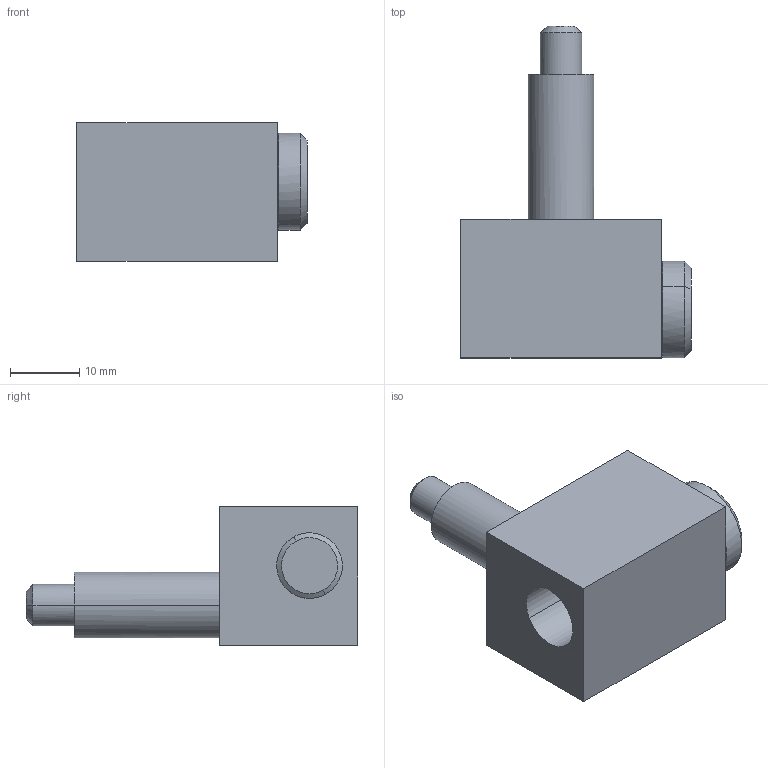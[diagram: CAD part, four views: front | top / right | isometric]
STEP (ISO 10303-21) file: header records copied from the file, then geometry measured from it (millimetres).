
FILE_DESCRIPTION(('CATIA V5 STEP Exchange'),'2;1');
FILE_NAME('W:\CATALOGO GENERAL 2018\FICHEROS CAD\025-ACCESORIOS\01-RACORES\RMF\RMF-C-M6L.stp','2025-04-29T07:40:20+00:00',('none'),('none'),'CATIA Version 5 Release 17 (IN-10)','CATIA V5 STEP AP203','none');
FILE_SCHEMA(('CONFIG_CONTROL_DESIGN'));
Length unit declared in the file: millimetre
Products named in the file (1): Product1
Assembly tree (2 placements, depth 2):
  Product1
    #56
    #2314
Bounding box: 33.3 x 48 x 20 mm (x, y, z)
Volume: 12105.6 mm3; surface area: 5609.1 mm2
Topology: 2 solids, 2 shells, 98 faces, 208 edges, 119 vertices
Faces by surface type: torus 34, cone 33, plane 19, cylinder 12
Entity records: 2923 total; most frequent: CARTESIAN_POINT 827, ORIENTED_EDGE 416, DIRECTION 380, AXIS2_PLACEMENT_3D 209, EDGE_CURVE 208, VERTEX_POINT 119, CIRCLE 107, EDGE_LOOP 105
